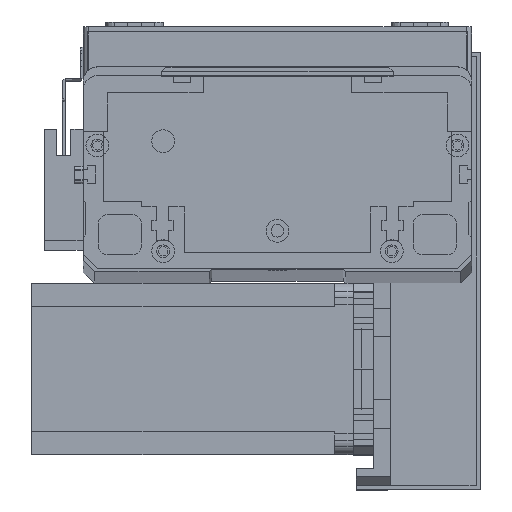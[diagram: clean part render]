
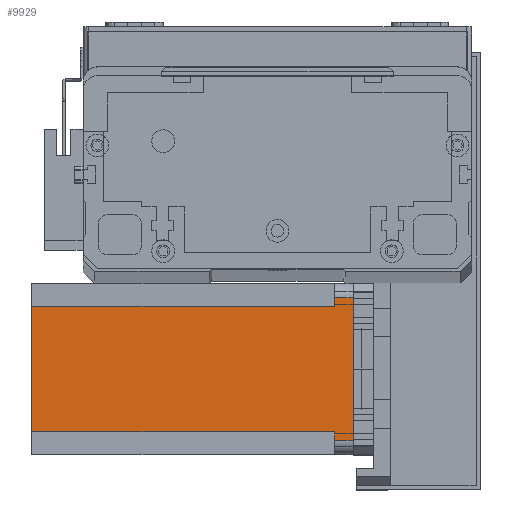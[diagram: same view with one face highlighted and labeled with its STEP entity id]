
A CAD part, top view. The second image highlights one B-rep face of the part: STEP entity #9929.
In plain terms, the highlighted planar face has unit normal (0, 0, 1) as drawn and (0, -1, 0) by its records, which use the part's own axes.
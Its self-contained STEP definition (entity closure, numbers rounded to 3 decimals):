
#80 = AXIS2_PLACEMENT_3D ( 'NONE', #12806, #15304, #987 ) ;
#97 = DIRECTION ( 'NONE',  ( -1., 0., 0. ) ) ;
#235 = CARTESIAN_POINT ( 'NONE',  ( 52., 0., -6.5 ) ) ;
#511 = ORIENTED_EDGE ( 'NONE', *, *, #29514, .F. ) ;
#856 = VERTEX_POINT ( 'NONE', #24751 ) ;
#987 = DIRECTION ( 'NONE',  ( 0., 0., -1. ) ) ;
#1620 = VECTOR ( 'NONE', #29729, 1000. ) ;
#1649 = CARTESIAN_POINT ( 'NONE',  ( 8., 0., -112.5 ) ) ;
#1681 = VECTOR ( 'NONE', #97, 1000. ) ;
#2061 = VERTEX_POINT ( 'NONE', #10638 ) ;
#2519 = CARTESIAN_POINT ( 'NONE',  ( 52., 0., -6.5 ) ) ;
#3795 = VECTOR ( 'NONE', #16497, 1000. ) ;
#4550 = LINE ( 'NONE', #14137, #3795 ) ;
#4599 = CARTESIAN_POINT ( 'NONE',  ( 55., 0., 0. ) ) ;
#5318 = LINE ( 'NONE', #2519, #17207 ) ;
#5659 = DIRECTION ( 'NONE',  ( 1., 0., 0. ) ) ;
#5722 = VECTOR ( 'NONE', #25519, 1000. ) ;
#5746 = VERTEX_POINT ( 'NONE', #235 ) ;
#5763 = ORIENTED_EDGE ( 'NONE', *, *, #24633, .T. ) ;
#6822 = CARTESIAN_POINT ( 'NONE',  ( 55., 0., -6.5 ) ) ;
#7062 = CARTESIAN_POINT ( 'NONE',  ( 55., 0., -112.5 ) ) ;
#7217 = EDGE_CURVE ( 'NONE', #28863, #856, #28789, .T. ) ;
#7296 = VERTEX_POINT ( 'NONE', #6822 ) ;
#7660 = ORIENTED_EDGE ( 'NONE', *, *, #7217, .F. ) ;
#8079 = VERTEX_POINT ( 'NONE', #11751 ) ;
#8103 = CARTESIAN_POINT ( 'NONE',  ( 5., 0., -112.5 ) ) ;
#8886 = EDGE_CURVE ( 'NONE', #2061, #13881, #4550, .T. ) ;
#9446 = DIRECTION ( 'NONE',  ( 0., 0., 1. ) ) ;
#9476 = LINE ( 'NONE', #8103, #21265 ) ;
#9732 = EDGE_LOOP ( 'NONE', ( #21134, #5763, #13845, #25125, #22108, #7660, #10249, #511 ) ) ;
#9929 = ADVANCED_FACE ( 'NONE', ( #17549 ), #10541, .T. ) ;
#9988 = LINE ( 'NONE', #19817, #22466 ) ;
#10249 = ORIENTED_EDGE ( 'NONE', *, *, #25320, .T. ) ;
#10530 = DIRECTION ( 'NONE',  ( 0., 0., -1. ) ) ;
#10541 = PLANE ( 'NONE',  #80 ) ;
#10638 = CARTESIAN_POINT ( 'NONE',  ( 5., 0., 0. ) ) ;
#11751 = CARTESIAN_POINT ( 'NONE',  ( 52., 0., -112.5 ) ) ;
#12806 = CARTESIAN_POINT ( 'NONE',  ( 0., 0., -112.5 ) ) ;
#13845 = ORIENTED_EDGE ( 'NONE', *, *, #8886, .F. ) ;
#13881 = VERTEX_POINT ( 'NONE', #4599 ) ;
#14137 = CARTESIAN_POINT ( 'NONE',  ( 0., 0., 0. ) ) ;
#14555 = CARTESIAN_POINT ( 'NONE',  ( 8., 0., -6.5 ) ) ;
#15168 = LINE ( 'NONE', #14555, #1681 ) ;
#15304 = DIRECTION ( 'NONE',  ( 0., -1., 0. ) ) ;
#16497 = DIRECTION ( 'NONE',  ( 1., 0., 0. ) ) ;
#16814 = DIRECTION ( 'NONE',  ( 1., 0., 0. ) ) ;
#17207 = VECTOR ( 'NONE', #16814, 1000. ) ;
#17549 = FACE_OUTER_BOUND ( 'NONE', #9732, .T. ) ;
#18126 = LINE ( 'NONE', #7062, #29619 ) ;
#18301 = LINE ( 'NONE', #23229, #5722 ) ;
#19817 = CARTESIAN_POINT ( 'NONE',  ( 0., 0., -112.5 ) ) ;
#20267 = CARTESIAN_POINT ( 'NONE',  ( 5., 0., -6.5 ) ) ;
#20828 = EDGE_CURVE ( 'NONE', #856, #26137, #15168, .T. ) ;
#21134 = ORIENTED_EDGE ( 'NONE', *, *, #30295, .T. ) ;
#21265 = VECTOR ( 'NONE', #10530, 1000. ) ;
#22108 = ORIENTED_EDGE ( 'NONE', *, *, #20828, .F. ) ;
#22466 = VECTOR ( 'NONE', #5659, 1000. ) ;
#22737 = EDGE_CURVE ( 'NONE', #2061, #26137, #9476, .T. ) ;
#22746 = CARTESIAN_POINT ( 'NONE',  ( 8., 0., -112.5 ) ) ;
#23229 = CARTESIAN_POINT ( 'NONE',  ( 52., 0., -112.5 ) ) ;
#24633 = EDGE_CURVE ( 'NONE', #7296, #13881, #18126, .T. ) ;
#24751 = CARTESIAN_POINT ( 'NONE',  ( 8., 0., -6.5 ) ) ;
#25125 = ORIENTED_EDGE ( 'NONE', *, *, #22737, .T. ) ;
#25320 = EDGE_CURVE ( 'NONE', #28863, #8079, #9988, .T. ) ;
#25519 = DIRECTION ( 'NONE',  ( 0., 0., -1. ) ) ;
#26137 = VERTEX_POINT ( 'NONE', #20267 ) ;
#28789 = LINE ( 'NONE', #1649, #1620 ) ;
#28863 = VERTEX_POINT ( 'NONE', #22746 ) ;
#29514 = EDGE_CURVE ( 'NONE', #5746, #8079, #18301, .T. ) ;
#29619 = VECTOR ( 'NONE', #9446, 1000. ) ;
#29729 = DIRECTION ( 'NONE',  ( 0., 0., 1. ) ) ;
#30295 = EDGE_CURVE ( 'NONE', #5746, #7296, #5318, .T. ) ;
